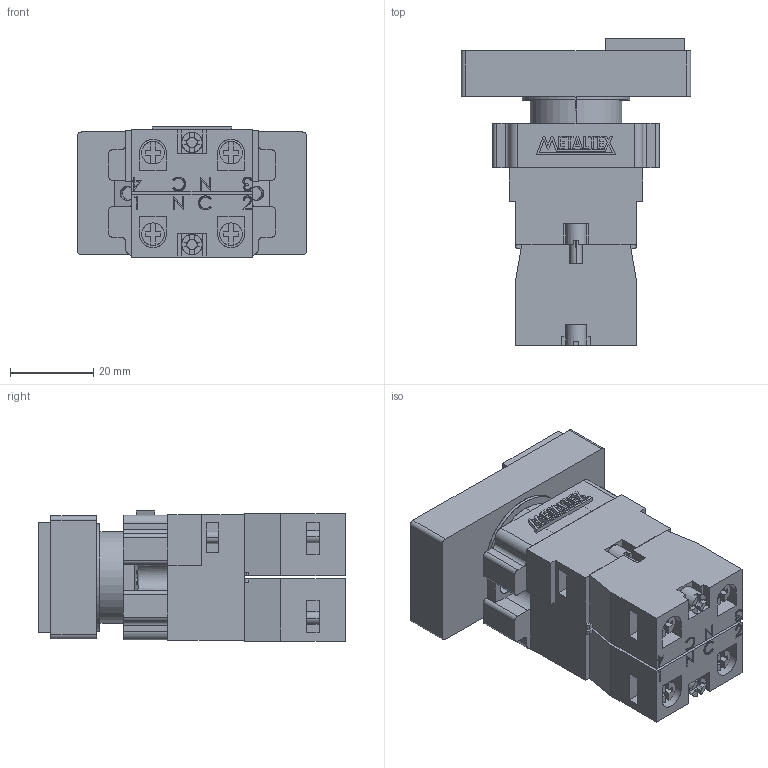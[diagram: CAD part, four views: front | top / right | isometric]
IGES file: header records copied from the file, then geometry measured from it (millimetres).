
Start section: SolidWorks IGES file using analytic representation for surfaces
Global section: file name: D:\X - Arquivos\PROEX\Empresas\P11 - METALTEX\01 - Produtos\IGES\Segunda remessa\M20ITL-Y-1C.IGS; native system: SolidWorks 2012; preprocessor: SolidWorks 2012; author: Usuario; date: 180117.121936; units: millimetre
Bounding box: 55 x 73.75 x 31.2 mm (x, y, z)
Surface area: 26143.9 mm2 (no closed solid volume)
Topology: 0 solids, 0 shells, 711 faces, 7807 edges, 7807 vertices
Faces by surface type: bspline 577, revolution 134
